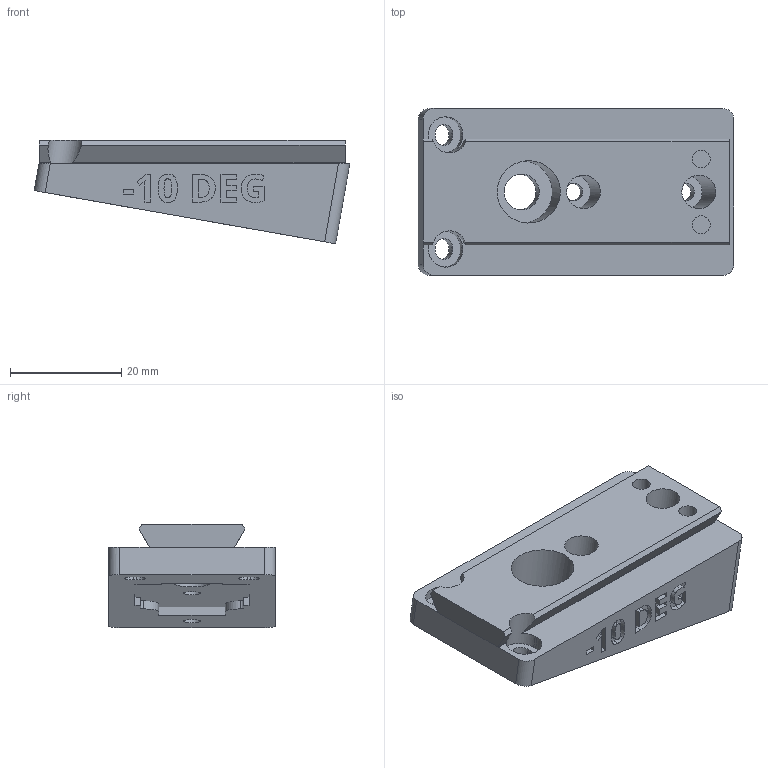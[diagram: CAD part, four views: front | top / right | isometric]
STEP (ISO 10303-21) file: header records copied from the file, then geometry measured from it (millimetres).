
FILE_DESCRIPTION(/* description */ ('STEP AP242 Edition 2','CAx-IF Rec.Pracs.---Representation and Presentation of Product Manufacturing Information (PMI)---4.0---2014-10-13','CAx-IF Rec.Pracs.---3D Tessellated Geometry---0.4---2014-09-14','2;1','CAx-IF Rec.Pracs.---User Defined Attributes---1.5---2016-08-15'),/* implementation_level */ '2;1');
FILE_NAME(/* name */ 'Camera Wedges - CAMERA MOUNTING WEDGE, NEG, -10 DEG',/* time_stamp */ '2026-07-08T20:34:17Z',/* author */ (''),/* organization */ (''),/* preprocessor_version */ 'ST-DEVELOPER v20',/* originating_system */ 'ONSHAPE BY PTC INC, 1.217',/* authorisation */ ' ');
FILE_SCHEMA (('AP242_MANAGED_MODEL_BASED_3D_ENGINEERING_MIM_LF { 1 0 10303 442 3 1 4 }'));
Length unit declared in the file: metre
Products named in the file (1): CAMERA MOUNTING WEDGE, NEG, -10 DEG
Bounding box: 56.72 x 30 x 18.58 mm (x, y, z)
Volume: 17276.5 mm3; surface area: 7086.9 mm2
Topology: 1 solids, 1 shells, 239 faces, 643 edges, 428 vertices
Faces by surface type: plane 141, bspline 62, cylinder 36
Full cylindrical faces by diameter (mm): 3.2 x4, 6 x2, 6.4 x1, 11.2 x1
Entity records: 7655 total; most frequent: CARTESIAN_POINT 1985, ORIENTED_EDGE 1270, DIRECTION 951, EDGE_CURVE 635, VERTEX_POINT 428, LINE 427, VECTOR 427, EDGE_LOOP 279
